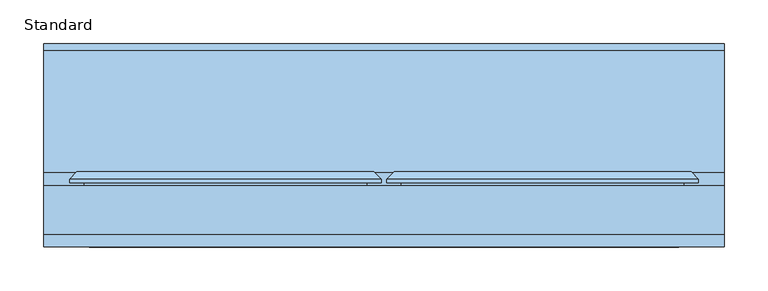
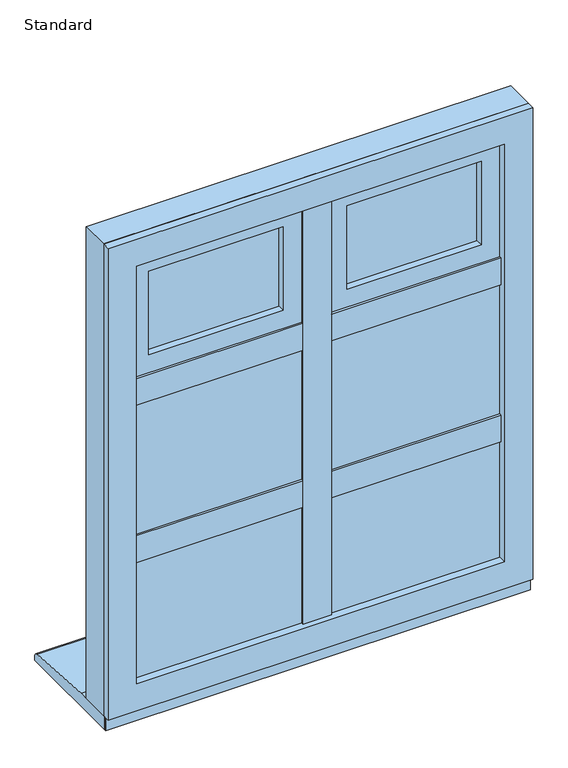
"""IFC4 building model written with IfcOpenShell, lengths in millimetres: window geometry, SMARTS_Alitherm600 : Standard."""

from ifc_helpers import new_model, si_unit, point, frame, frame_2d, origin, place, context, project, spatial, polyline, circle_curve, trimmed, segment, composite_curve, outline, extrude, faceted_brep, source, transform, mapped, element, save


def standard_94e4261b(model_context):
    return source(origin(), model_context, "Body", "SolidModel", [
        extrude(outline(polyline([(-9.4, 102.8298432), (9.4, 102.8298432), (9.4, 47.2458572), (-9.4, 47.2458572), (-9.4, 102.8298432)])), frame((0.0, 0.0, 670.8979117), z_axis=(0.0, 0.0, 1.0), x_axis=(1.0, 0.0, 0.0)), (0.0, 0.0, 1.0), 843.2041766),
        extrude(outline(polyline([(-25.9020883, 47.2458572), (25.9020883, 47.2458572), (25.9020883, 43.2798432), (-25.9020883, 43.2798432), (-25.9020883, 47.2458572)])), frame((0.0, 0.0, 687.4), z_axis=(0.0, 0.0, 1.0), x_axis=(1.0, 0.0, 0.0)), (0.0, 0.0, 1.0), 810.2),
        extrude(outline(polyline([(-9.4979117, 102.8298432), (-9.4979117, 47.2458572), (-354.1020883, 47.2458572), (-354.1020883, 102.8298432), (-9.4979117, 102.8298432)])), frame((0.0, 0.0, 930.6), z_axis=(0.0, 0.0, 1.0), x_axis=(1.0, 0.0, 0.0)), (0.0, 0.0, 1.0), 18.8),
        extrude(outline(polyline([(-26.0, 47.2458572), (-26.0, 43.2798432), (-337.6, 43.2798432), (-337.6, 47.2458572), (-26.0, 47.2458572)])), frame((0.0, 0.0, 914.0979117), z_axis=(0.0, 0.0, 1.0), x_axis=(1.0, 0.0, 0.0)), (0.0, 0.0, 1.0), 51.8041766),
        extrude(outline(polyline([(-9.4979117, 102.8298432), (-9.4979117, 47.2458572), (-354.1020883, 47.2458572), (-354.1020883, 102.8298432), (-9.4979117, 102.8298432)])), frame((0.0, 0.0, 1235.6), z_axis=(0.0, 0.0, 1.0), x_axis=(1.0, 0.0, 0.0)), (0.0, 0.0, 1.0), 18.8),
        extrude(outline(polyline([(-26.0, 47.2458572), (-26.0, 43.2798432), (-337.6, 43.2798432), (-337.6, 47.2458572), (-26.0, 47.2458572)])), frame((0.0, 0.0, 1219.0979117), z_axis=(0.0, 0.0, 1.0), x_axis=(1.0, 0.0, 0.0)), (0.0, 0.0, 1.0), 51.8041766),
        extrude(outline(polyline([(354.1020883, 102.8298432), (354.1020883, 47.2458572), (9.4979117, 47.2458572), (9.4979117, 102.8298432), (354.1020883, 102.8298432)])), frame((0.0, 0.0, 930.6), z_axis=(0.0, 0.0, 1.0), x_axis=(1.0, 0.0, 0.0)), (0.0, 0.0, 1.0), 18.8),
        extrude(outline(polyline([(337.6, 47.2458572), (337.6, 43.2798432), (26.0, 43.2798432), (26.0, 47.2458572), (337.6, 47.2458572)])), frame((0.0, 0.0, 914.0979117), z_axis=(0.0, 0.0, 1.0), x_axis=(1.0, 0.0, 0.0)), (0.0, 0.0, 1.0), 51.8041766),
        extrude(outline(polyline([(354.1020883, 102.8298432), (354.1020883, 47.2458572), (9.4979117, 47.2458572), (9.4979117, 102.8298432), (354.1020883, 102.8298432)])), frame((0.0, 0.0, 1235.6), z_axis=(0.0, 0.0, 1.0), x_axis=(1.0, 0.0, 0.0)), (0.0, 0.0, 1.0), 18.8),
        extrude(outline(polyline([(337.6, 47.2458572), (337.6, 43.2798432), (26.0, 43.2798432), (26.0, 47.2458572), (337.6, 47.2458572)])), frame((0.0, 0.0, 1219.0979117), z_axis=(0.0, 0.0, 1.0), x_axis=(1.0, 0.0, 0.0)), (0.0, 0.0, 1.0), 51.8041766),
        extrude(outline(polyline([(-352.6, 77.7798432), (-11.0, 77.7798432), (-11.0, 73.7798432), (-352.6, 73.7798432), (-352.6, 77.7798432)])), frame((0.0, 0.0, 672.4), z_axis=(0.0, 0.0, 1.0), x_axis=(1.0, 0.0, 0.0)), (0.0, 0.0, 1.0), 256.6),
        extrude(outline(polyline([(-352.6, 57.7798432), (-11.0, 57.7798432), (-11.0, 53.7798432), (-352.6, 53.7798432), (-352.6, 57.7798432)])), frame((0.0, 0.0, 672.4), z_axis=(0.0, 0.0, 1.0), x_axis=(1.0, 0.0, 0.0)), (0.0, 0.0, 1.0), 256.6),
        extrude(outline(polyline([(929.0, -352.6), (672.4, -352.6), (672.4, -11.0), (929.0, -11.0), (929.0, -352.6)]), holes=[polyline([(919.0, -21.0), (682.4, -21.0), (682.4, -342.6), (919.0, -342.6), (919.0, -21.0)])]), frame((0.0, 57.7798432, 0.0), z_axis=(0.0, 1.0, 0.0), x_axis=(0.0, 0.0, 1.0)), (0.0, 0.0, 1.0), 16.0),
        faceted_brep([(-349.4160653, 102.7798432, 925.8160653), (-337.2339746, 81.6798432, 913.6339746), (-337.2339746, 81.6798432, 687.7660254), (-349.4160653, 102.7798432, 675.5839347), (-26.3660254, 81.6798432, 687.7660254), (-14.1839347, 102.7798432, 675.5839347), (-26.3660254, 81.6798432, 913.6339746), (-14.1839347, 102.7798432, 925.8160653), (-9.5, 81.6798432, 930.5), (-9.5, 102.7798432, 930.5), (-354.1, 102.7798432, 930.5), (-354.1, 81.6798432, 930.5), (-354.1, 102.7798432, 670.9), (-354.1, 81.6798432, 670.9), (-9.5, 102.7798432, 670.9), (-9.5, 81.6798432, 670.9)], [[[0, 1, 2, 3]], [[3, 2, 4, 5]], [[5, 4, 6, 7]], [[7, 6, 1, 0]], [[8, 9, 10, 11]], [[11, 10, 12, 13]], [[13, 12, 14, 15]], [[9, 14, 12, 10], [0, 3, 5, 7]], [[15, 14, 9, 8]], [[11, 13, 15, 8], [6, 4, 2, 1]]]),
        extrude(outline(polyline([(-352.6, 77.7798432), (-11.0, 77.7798432), (-11.0, 73.7798432), (-352.6, 73.7798432), (-352.6, 77.7798432)])), frame((0.0, 0.0, 951.0), z_axis=(0.0, 0.0, 1.0), x_axis=(1.0, 0.0, 0.0)), (0.0, 0.0, 1.0), 283.0),
        extrude(outline(polyline([(-352.6, 57.7798432), (-11.0, 57.7798432), (-11.0, 53.7798432), (-352.6, 53.7798432), (-352.6, 57.7798432)])), frame((0.0, 0.0, 951.0), z_axis=(0.0, 0.0, 1.0), x_axis=(1.0, 0.0, 0.0)), (0.0, 0.0, 1.0), 283.0),
        extrude(outline(polyline([(1234.0, -352.6), (951.0, -352.6), (951.0, -11.0), (1234.0, -11.0), (1234.0, -352.6)]), holes=[polyline([(1224.0, -21.0), (961.0, -21.0), (961.0, -342.6), (1224.0, -342.6), (1224.0, -21.0)])]), frame((0.0, 57.7798432, 0.0), z_axis=(0.0, 1.0, 0.0), x_axis=(0.0, 0.0, 1.0)), (0.0, 0.0, 1.0), 16.0),
        faceted_brep([(-349.4160653, 102.7798432, 1230.8160653), (-337.2339746, 81.6798432, 1218.6339746), (-337.2339746, 81.6798432, 966.3660254), (-349.4160653, 102.7798432, 954.1839347), (-26.3660254, 81.6798432, 966.3660254), (-14.1839347, 102.7798432, 954.1839347), (-26.3660254, 81.6798432, 1218.6339746), (-14.1839347, 102.7798432, 1230.8160653), (-9.5, 81.6798432, 1235.5), (-9.5, 102.7798432, 1235.5), (-354.1, 102.7798432, 1235.5), (-354.1, 81.6798432, 1235.5), (-354.1, 102.7798432, 949.5), (-354.1, 81.6798432, 949.5), (-9.5, 102.7798432, 949.5), (-9.5, 81.6798432, 949.5)], [[[0, 1, 2, 3]], [[3, 2, 4, 5]], [[5, 4, 6, 7]], [[7, 6, 1, 0]], [[8, 9, 10, 11]], [[11, 10, 12, 13]], [[13, 12, 14, 15]], [[9, 14, 12, 10], [0, 3, 5, 7]], [[15, 14, 9, 8]], [[11, 13, 15, 8], [6, 4, 2, 1]]]),
        extrude(outline(polyline([(1476.6, -316.6), (1292.0, -316.6), (1292.0, -47.0), (1476.6, -47.0), (1476.6, -316.6)]), holes=[polyline([(1466.6, -57.0), (1302.0, -57.0), (1302.0, -306.6), (1466.6, -306.6), (1466.6, -57.0)])]), frame((0.0, 72.3211351, 0.0), z_axis=(0.0, 1.0, 0.0), x_axis=(0.0, 0.0, 1.0)), (0.0, 0.0, 1.0), 16.0),
        extrude(outline(polyline([(-316.6, 92.3211351), (-47.0, 92.3211351), (-47.0, 88.3211351), (-316.6, 88.3211351), (-316.6, 92.3211351)])), frame((0.0, 0.0, 1292.0), z_axis=(0.0, 0.0, 1.0), x_axis=(1.0, 0.0, 0.0)), (0.0, 0.0, 1.0), 184.6),
        extrude(outline(polyline([(-316.6, 72.3211351), (-47.0, 72.3211351), (-47.0, 68.3211351), (-316.6, 68.3211351), (-316.6, 72.3211351)])), frame((0.0, 0.0, 1292.0), z_axis=(0.0, 0.0, 1.0), x_axis=(1.0, 0.0, 0.0)), (0.0, 0.0, 1.0), 184.6),
        faceted_brep([(-46.6778853, 118.8818325, 1476.9221147), (-58.859976, 97.7818325, 1464.740024), (-304.740024, 97.7818325, 1464.740024), (-316.9221147, 118.8818325, 1476.9221147), (-41.9939506, 97.7818325, 1481.6060494), (-41.9939506, 118.8818325, 1481.6060494), (-321.6060494, 118.8818325, 1481.6060494), (-321.6060494, 97.7818325, 1481.6060494), (-304.740024, 97.7818325, 1303.859976), (-316.9221147, 118.8818325, 1291.6778853), (-321.6060494, 118.8818325, 1286.9939506), (-321.6060494, 97.7818325, 1286.9939506), (-58.859976, 97.7818325, 1303.859976), (-46.6778853, 118.8818325, 1291.6778853), (-41.9939506, 118.8818325, 1286.9939506), (-41.9939506, 97.7818325, 1286.9939506)], [[[0, 1, 2, 3]], [[4, 5, 6, 7]], [[3, 2, 8, 9]], [[7, 6, 10, 11]], [[9, 8, 12, 13]], [[11, 10, 14, 15]], [[13, 12, 1, 0]], [[5, 14, 10, 6], [3, 9, 13, 0]], [[15, 14, 5, 4]], [[7, 11, 15, 4], [1, 12, 8, 2]]]),
        extrude(outline(polyline([(1265.152908, -343.447092), (1265.152908, -20.152908), (1503.447092, -20.152908), (1503.447092, -343.447092), (1265.152908, -343.447092)]), holes=[polyline([(1465.1, -305.1), (1465.1, -58.5), (1303.5, -58.5), (1303.5, -305.1), (1465.1, -305.1)])]), frame((0.0, 50.2798432, 0.0), z_axis=(0.0, 1.0, 0.0), x_axis=(0.0, 0.0, 1.0)), (0.0, 0.0, 1.0), 13.0853156),
        faceted_brep([(-321.6060494, 118.8818325, 1481.6060494), (-321.6060494, 63.3651588, 1481.6060494), (-321.6060494, 63.3651588, 1286.9939506), (-321.6060494, 118.8818325, 1286.9939506), (-41.9939506, 63.3651588, 1286.9939506), (-41.9939506, 118.8818325, 1286.9939506), (-41.9939506, 63.3651588, 1481.6060494), (-41.9939506, 118.8818325, 1481.6060494), (-360.3358988, 106.2818325, 1520.3358988), (-360.3358988, 110.3519831, 1520.3358988), (-360.3358988, 110.3519831, 1248.2641012), (-360.3358988, 106.2818325, 1248.2641012), (-3.2641012, 110.3519831, 1248.2641012), (-3.2641012, 106.2818325, 1248.2641012), (-3.2641012, 110.3519831, 1520.3358988), (-3.2641012, 106.2818325, 1520.3358988), (-343.7467657, 106.2818325, 1503.7467657), (-19.8532343, 106.2818325, 1503.7467657), (-19.8532343, 106.2818325, 1264.8532343), (-343.7467657, 106.2818325, 1264.8532343), (-351.8060494, 118.8818325, 1511.8060494), (-11.7939506, 118.8818325, 1511.8060494), (-11.7939506, 118.8818325, 1256.7939506), (-351.8060494, 118.8818325, 1256.7939506), (-343.7467657, 63.3651588, 1503.7467657), (-343.7467657, 63.3651588, 1264.8532343), (-19.8532343, 63.3651588, 1264.8532343), (-19.8532343, 63.3651588, 1503.7467657)], [[[0, 1, 2, 3]], [[3, 2, 4, 5]], [[5, 4, 6, 7]], [[7, 6, 1, 0]], [[8, 9, 10, 11]], [[11, 10, 12, 13]], [[13, 12, 14, 15]], [[11, 13, 15, 8], [16, 17, 18, 19]], [[15, 14, 9, 8]], [[20, 21, 22, 23], [3, 5, 7, 0]], [[24, 16, 19, 25]], [[25, 19, 18, 26]], [[26, 18, 17, 27]], [[25, 26, 27, 24], [1, 6, 4, 2]], [[27, 17, 16, 24]], [[9, 20, 23, 10]], [[10, 23, 22, 12]], [[12, 22, 21, 14]], [[14, 21, 20, 9]]]),
        extrude(outline(polyline([(11.0, 77.7798432), (352.6, 77.7798432), (352.6, 73.7798432), (11.0, 73.7798432), (11.0, 77.7798432)])), frame((0.0, 0.0, 672.4), z_axis=(0.0, 0.0, 1.0), x_axis=(1.0, 0.0, 0.0)), (0.0, 0.0, 1.0), 256.6),
        extrude(outline(polyline([(11.0, 57.7798432), (352.6, 57.7798432), (352.6, 53.7798432), (11.0, 53.7798432), (11.0, 57.7798432)])), frame((0.0, 0.0, 672.4), z_axis=(0.0, 0.0, 1.0), x_axis=(1.0, 0.0, 0.0)), (0.0, 0.0, 1.0), 256.6),
        extrude(outline(polyline([(929.0, 11.0), (672.4, 11.0), (672.4, 352.6), (929.0, 352.6), (929.0, 11.0)]), holes=[polyline([(919.0, 342.6), (682.4, 342.6), (682.4, 21.0), (919.0, 21.0), (919.0, 342.6)])]), frame((0.0, 57.7798432, 0.0), z_axis=(0.0, 1.0, 0.0), x_axis=(0.0, 0.0, 1.0)), (0.0, 0.0, 1.0), 16.0),
        faceted_brep([(14.1839347, 102.7798432, 925.8160653), (26.3660254, 81.6798432, 913.6339746), (26.3660254, 81.6798432, 687.7660254), (14.1839347, 102.7798432, 675.5839347), (337.2339746, 81.6798432, 687.7660254), (349.4160653, 102.7798432, 675.5839347), (337.2339746, 81.6798432, 913.6339746), (349.4160653, 102.7798432, 925.8160653), (354.1, 81.6798432, 930.5), (354.1, 102.7798432, 930.5), (9.5, 102.7798432, 930.5), (9.5, 81.6798432, 930.5), (9.5, 102.7798432, 670.9), (9.5, 81.6798432, 670.9), (354.1, 102.7798432, 670.9), (354.1, 81.6798432, 670.9)], [[[0, 1, 2, 3]], [[3, 2, 4, 5]], [[5, 4, 6, 7]], [[7, 6, 1, 0]], [[8, 9, 10, 11]], [[11, 10, 12, 13]], [[13, 12, 14, 15]], [[9, 14, 12, 10], [0, 3, 5, 7]], [[15, 14, 9, 8]], [[11, 13, 15, 8], [6, 4, 2, 1]]]),
        extrude(outline(polyline([(11.0, 77.7798432), (352.6, 77.7798432), (352.6, 73.7798432), (11.0, 73.7798432), (11.0, 77.7798432)])), frame((0.0, 0.0, 951.0), z_axis=(0.0, 0.0, 1.0), x_axis=(1.0, 0.0, 0.0)), (0.0, 0.0, 1.0), 283.0),
        extrude(outline(polyline([(11.0, 57.7798432), (352.6, 57.7798432), (352.6, 53.7798432), (11.0, 53.7798432), (11.0, 57.7798432)])), frame((0.0, 0.0, 951.0), z_axis=(0.0, 0.0, 1.0), x_axis=(1.0, 0.0, 0.0)), (0.0, 0.0, 1.0), 283.0),
        extrude(outline(polyline([(1234.0, 11.0), (951.0, 11.0), (951.0, 352.6), (1234.0, 352.6), (1234.0, 11.0)]), holes=[polyline([(1224.0, 342.6), (961.0, 342.6), (961.0, 21.0), (1224.0, 21.0), (1224.0, 342.6)])]), frame((0.0, 57.7798432, 0.0), z_axis=(0.0, 1.0, 0.0), x_axis=(0.0, 0.0, 1.0)), (0.0, 0.0, 1.0), 16.0),
        faceted_brep([(14.1839347, 102.7798432, 1230.8160653), (26.3660254, 81.6798432, 1218.6339746), (26.3660254, 81.6798432, 966.3660254), (14.1839347, 102.7798432, 954.1839347), (337.2339746, 81.6798432, 966.3660254), (349.4160653, 102.7798432, 954.1839347), (337.2339746, 81.6798432, 1218.6339746), (349.4160653, 102.7798432, 1230.8160653), (354.1, 81.6798432, 1235.5), (354.1, 102.7798432, 1235.5), (9.5, 102.7798432, 1235.5), (9.5, 81.6798432, 1235.5), (9.5, 102.7798432, 949.5), (9.5, 81.6798432, 949.5), (354.1, 102.7798432, 949.5), (354.1, 81.6798432, 949.5)], [[[0, 1, 2, 3]], [[3, 2, 4, 5]], [[5, 4, 6, 7]], [[7, 6, 1, 0]], [[8, 9, 10, 11]], [[11, 10, 12, 13]], [[13, 12, 14, 15]], [[9, 14, 12, 10], [0, 3, 5, 7]], [[15, 14, 9, 8]], [[11, 13, 15, 8], [6, 4, 2, 1]]]),
        extrude(outline(polyline([(1550.0, 390.0), (1550.0, -390.0), (635.0, -390.0), (635.0, 390.0), (1550.0, 390.0)]), holes=[polyline([(670.85, 354.15), (670.85, -354.15), (1514.15, -354.15), (1514.15, 354.15), (670.85, 354.15)])]), frame((0.0, 47.2798427, 0.0), z_axis=(0.0, 1.0, 0.0), x_axis=(0.0, 0.0, 1.0)), (0.0, 0.0, 1.0), 55.5500006),
        extrude(outline(polyline([(1550.0, 390.0), (1550.0, -390.0), (635.0, -390.0), (635.0, 390.0), (1550.0, 390.0)]), holes=[polyline([(687.35, 337.65), (687.35, -337.65), (1497.65, -337.65), (1497.65, 337.65), (687.35, 337.65)])]), frame((0.0, 32.8298432, 0.0), z_axis=(0.0, 1.0, 0.0), x_axis=(0.0, 0.0, 1.0)), (0.0, 0.0, 1.0), 14.4499994),
        extrude(outline(polyline([(1476.6, 47.0), (1292.0, 47.0), (1292.0, 316.6), (1476.6, 316.6), (1476.6, 47.0)]), holes=[polyline([(1466.6, 306.6), (1302.0, 306.6), (1302.0, 57.0), (1466.6, 57.0), (1466.6, 306.6)])]), frame((0.0, 72.3211351, 0.0), z_axis=(0.0, 1.0, 0.0), x_axis=(0.0, 0.0, 1.0)), (0.0, 0.0, 1.0), 16.0),
        extrude(outline(polyline([(47.0, 92.3211351), (316.6, 92.3211351), (316.6, 88.3211351), (47.0, 88.3211351), (47.0, 92.3211351)])), frame((0.0, 0.0, 1292.0), z_axis=(0.0, 0.0, 1.0), x_axis=(1.0, 0.0, 0.0)), (0.0, 0.0, 1.0), 184.6),
        extrude(outline(polyline([(47.0, 72.3211351), (316.6, 72.3211351), (316.6, 68.3211351), (47.0, 68.3211351), (47.0, 72.3211351)])), frame((0.0, 0.0, 1292.0), z_axis=(0.0, 0.0, 1.0), x_axis=(1.0, 0.0, 0.0)), (0.0, 0.0, 1.0), 184.6),
        faceted_brep([(316.9221147, 118.8818325, 1476.9221147), (304.740024, 97.7818325, 1464.740024), (58.859976, 97.7818325, 1464.740024), (46.6778853, 118.8818325, 1476.9221147), (321.6060494, 97.7818325, 1481.6060494), (321.6060494, 118.8818325, 1481.6060494), (41.9939506, 118.8818325, 1481.6060494), (41.9939506, 97.7818325, 1481.6060494), (58.859976, 97.7818325, 1303.859976), (46.6778853, 118.8818325, 1291.6778853), (41.9939506, 118.8818325, 1286.9939506), (41.9939506, 97.7818325, 1286.9939506), (304.740024, 97.7818325, 1303.859976), (316.9221147, 118.8818325, 1291.6778853), (321.6060494, 118.8818325, 1286.9939506), (321.6060494, 97.7818325, 1286.9939506)], [[[0, 1, 2, 3]], [[4, 5, 6, 7]], [[3, 2, 8, 9]], [[7, 6, 10, 11]], [[9, 8, 12, 13]], [[11, 10, 14, 15]], [[13, 12, 1, 0]], [[5, 14, 10, 6], [3, 9, 13, 0]], [[15, 14, 5, 4]], [[7, 11, 15, 4], [1, 12, 8, 2]]]),
        extrude(outline(polyline([(1265.152908, 20.152908), (1265.152908, 343.447092), (1503.447092, 343.447092), (1503.447092, 20.152908), (1265.152908, 20.152908)]), holes=[polyline([(1465.1, 58.5), (1465.1, 305.1), (1303.5, 305.1), (1303.5, 58.5), (1465.1, 58.5)])]), frame((0.0, 50.2798432, 0.0), z_axis=(0.0, 1.0, 0.0), x_axis=(0.0, 0.0, 1.0)), (0.0, 0.0, 1.0), 13.0853156),
        faceted_brep([(41.9939506, 118.8818325, 1481.6060494), (41.9939506, 63.3651588, 1481.6060494), (41.9939506, 63.3651588, 1286.9939506), (41.9939506, 118.8818325, 1286.9939506), (321.6060494, 63.3651588, 1286.9939506), (321.6060494, 118.8818325, 1286.9939506), (321.6060494, 63.3651588, 1481.6060494), (321.6060494, 118.8818325, 1481.6060494), (3.2641012, 106.2818325, 1520.3358988), (3.2641012, 110.3519831, 1520.3358988), (3.2641012, 110.3519831, 1248.2641012), (3.2641012, 106.2818325, 1248.2641012), (360.3358988, 110.3519831, 1248.2641012), (360.3358988, 106.2818325, 1248.2641012), (360.3358988, 110.3519831, 1520.3358988), (360.3358988, 106.2818325, 1520.3358988), (19.8532343, 106.2818325, 1503.7467657), (343.7467657, 106.2818325, 1503.7467657), (343.7467657, 106.2818325, 1264.8532343), (19.8532343, 106.2818325, 1264.8532343), (11.7939506, 118.8818325, 1511.8060494), (351.8060494, 118.8818325, 1511.8060494), (351.8060494, 118.8818325, 1256.7939506), (11.7939506, 118.8818325, 1256.7939506), (19.8532343, 63.3651588, 1503.7467657), (19.8532343, 63.3651588, 1264.8532343), (343.7467657, 63.3651588, 1264.8532343), (343.7467657, 63.3651588, 1503.7467657)], [[[0, 1, 2, 3]], [[3, 2, 4, 5]], [[5, 4, 6, 7]], [[7, 6, 1, 0]], [[8, 9, 10, 11]], [[11, 10, 12, 13]], [[13, 12, 14, 15]], [[11, 13, 15, 8], [16, 17, 18, 19]], [[15, 14, 9, 8]], [[20, 21, 22, 23], [3, 5, 7, 0]], [[24, 16, 19, 25]], [[25, 19, 18, 26]], [[26, 18, 17, 27]], [[25, 26, 27, 24], [1, 6, 4, 2]], [[27, 17, 16, 24]], [[9, 20, 23, 10]], [[10, 23, 22, 12]], [[12, 22, 21, 14]], [[14, 21, 20, 9]]]),
        extrude(outline(polyline([(390.0, 43.2798432), (390.0, 40.7798432), (-390.0, 40.7798432), (-390.0, 43.2798432), (390.0, 43.2798432)])), frame((0.0, 0.0, 610.0), z_axis=(0.0, 0.0, 1.0), x_axis=(1.0, 0.0, 0.0)), (0.0, 0.0, 1.0), 31.0),
        extrude(outline(composite_curve([segment(polyline([(265.7798432, 610.0), (43.2798432, 610.0), (43.2798432, 635.0), (118.7798432, 635.0), (258.4770891, 625.9276664)]), True, "CONTINUOUS"), segment(trimmed(circle_curve(frame_2d((257.7798432, 617.9581088)), 8.0), [point((258.4770891, 625.9276664))], [point((265.7798432, 617.9581088))], False, "CARTESIAN"), True, "CONTINUOUS"), segment(polyline([(265.7798432, 617.9581088), (265.7798432, 610.0)]), True, "CONTINUOUS")], self_intersect=False)), frame((-390.0, 0.0, 0.0), z_axis=(1.0, 0.0, 0.0), x_axis=(0.0, 1.0, 0.0)), (0.0, 0.0, 1.0), 780.0),
    ])


if __name__ == "__main__":
    model = new_model("IFC4")
    model_context = context("Model", 3, world=origin())
    ifc_project = project(units=[si_unit("LENGTHUNIT", "METRE", prefix="MILLI")], contexts=[model_context])
    site = spatial("IfcSite", under=ifc_project)
    building = spatial("IfcBuilding", under=site)
    placement = place(None, origin())
    standard_shape = standard_94e4261b(model_context)
    element("IfcWindow", 1, ObjectType="SMARTS_Alitherm600 : Standard", at=placement, inside=building, context=model_context, shape_type="MappedRepresentation", body=[
        mapped(standard_shape, transform((0.0, 0.0, 0.0), x_axis=(1.0, 0.0, 0.0), y_axis=(0.0, 1.0, 0.0), z_axis=(0.0, 0.0, 1.0))),
    ])
    save(model, "model.ifc")
